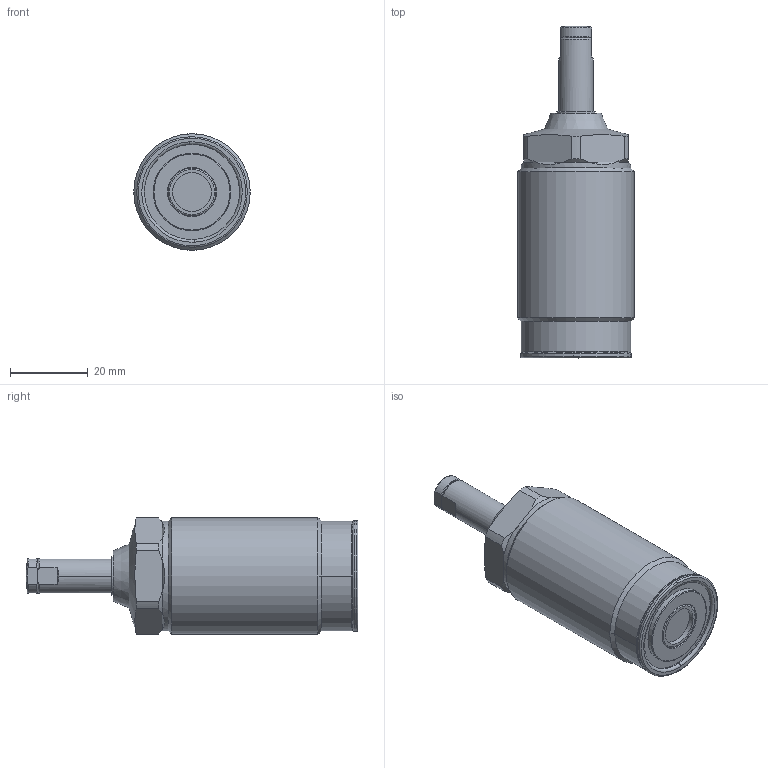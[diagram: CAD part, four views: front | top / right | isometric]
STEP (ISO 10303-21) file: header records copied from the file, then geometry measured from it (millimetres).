
FILE_DESCRIPTION(/* description */ (''),/* implementation_level */ '2;1');
FILE_NAME(/* name */ 'TNE30-Q.stp',/* time_stamp */ '2025-01-09T15:46:07+08:00',/* author */ (''),/* organization */ (''),/* preprocessor_version */ 'ST-DEVELOPER v16.7',/* originating_system */ 'SIEMENS PLM Software NX 12.0',/* authorisation */ '');
FILE_SCHEMA (('AUTOMOTIVE_DESIGN { 1 0 10303 214 3 1 1 1 }'));
Length unit declared in the file: millimetre
Products named in the file (6): TNE30-Q-03; TNE30-Q-5; TNE30-Q-4; TNE30-Q-2; TNE30-Q-01; TNE30-Q_stp
Assembly tree (5 placements, depth 2):
  TNE30-Q_stp
    TNE30-Q-01
    TNE30-Q-2
    TNE30-Q-4
    TNE30-Q-5
    TNE30-Q-03
Bounding box: 30 x 85.5 x 30 mm (x, y, z)
Volume: 41331.9 mm3; surface area: 8578.5 mm2
Topology: 5 solids, 5 shells, 129 faces, 279 edges, 167 vertices
Faces by surface type: cylinder 40, torus 34, plane 34, cone 19, sphere 2
Full cylindrical faces by diameter (mm): 28.2 x1, 30 x1
Entity records: 3850 total; most frequent: CARTESIAN_POINT 846, DIRECTION 676, ORIENTED_EDGE 548, AXIS2_PLACEMENT_3D 301, EDGE_CURVE 274, VERTEX_POINT 167, CIRCLE 160, EDGE_LOOP 145
